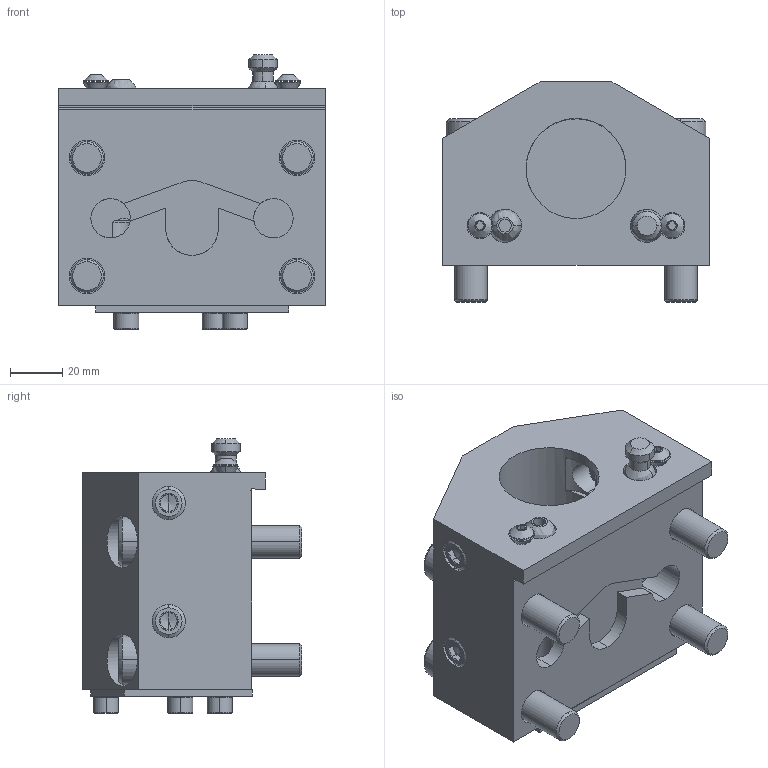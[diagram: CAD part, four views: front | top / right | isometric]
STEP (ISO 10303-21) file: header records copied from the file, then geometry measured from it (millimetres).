
FILE_DESCRIPTION (( 'STEP AP203' ), '1' );
FILE_NAME ('04-0757, BOT20ID-1.5.STEP', '2022-07-18T22:17:12', ( '' ), ( '' ), 'SwSTEP 2.0', 'SolidWorks 2021', '' );
FILE_SCHEMA (( 'CONFIG_CONTROL_DESIGN' ));
Length unit declared in the file: inch
Products named in the file (1): 04-0757, BOT20ID-1.5
Bounding box: 101.6 x 83.82 x 104.43 mm (x, y, z)
Surface area: 83854.8 mm2 (no closed solid volume)
Topology: 0 solids, 31 shells, 377 faces, 1019 edges, 672 vertices
Faces by surface type: plane 191, cylinder 93, cone 68, bspline 25
Entity records: 19974 total; most frequent: CARTESIAN_POINT 10916, ORIENTED_EDGE 1814, DIRECTION 1728, EDGE_CURVE 1003, VERTEX_POINT 672, AXIS2_PLACEMENT_3D 619, VECTOR 490, LINE 490
